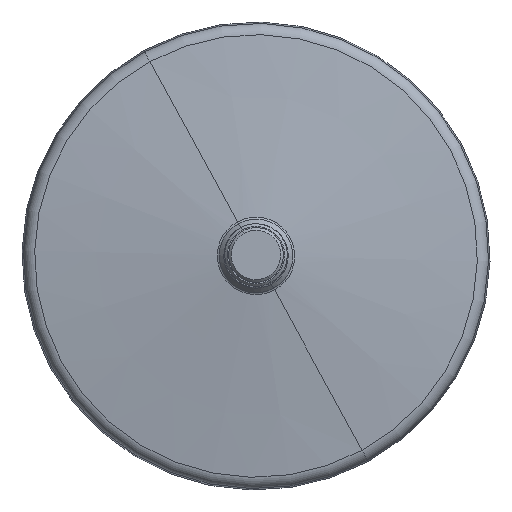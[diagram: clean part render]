
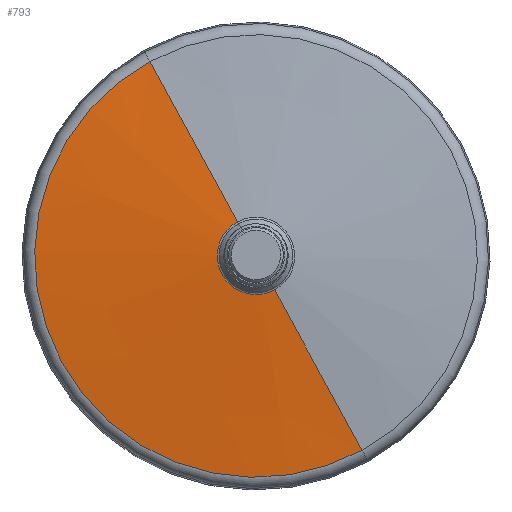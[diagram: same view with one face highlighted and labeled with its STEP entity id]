
A CAD part, top view. The second image highlights one B-rep face of the part: STEP entity #793.
In plain terms, the highlighted conical face has half-angle 82.947 degrees and reference radius 14.877 mm.
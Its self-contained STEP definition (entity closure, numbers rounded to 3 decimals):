
#459=EDGE_CURVE('',#1207,#1173,#1208,.F.);
#569=EDGE_CURVE('',#1080,#1207,#1376,.T.);
#793=ADVANCED_FACE('',(#1683),#1684,.T.);
#815=EDGE_CURVE('',#1080,#1174,#1713,.F.);
#981=EDGE_CURVE('',#1174,#1173,#1923,.F.);
#1080=VERTEX_POINT('',#2031);
#1173=VERTEX_POINT('',#2162);
#1174=VERTEX_POINT('',#2163);
#1207=VERTEX_POINT('',#2221);
#1208=LINE('',#2222,#2223);
#1376=CIRCLE('',#2455,85.114);
#1683=FACE_OUTER_BOUND('',#2890,.T.);
#1684=CONICAL_SURFACE('',#2891,14.877,1.448);
#1713=LINE('',#2940,#2941);
#1923=CIRCLE('',#3290,14.877);
#2031=CARTESIAN_POINT('',(-40.806,74.695,15.962));
#2162=CARTESIAN_POINT('',(7.133,-13.056,24.653));
#2163=CARTESIAN_POINT('',(-7.133,13.056,24.653));
#2221=CARTESIAN_POINT('',(40.806,-74.695,15.962));
#2222=CARTESIAN_POINT('',(23.969,-43.875,20.307));
#2223=VECTOR('',#3517,1.0);
#2455=AXIS2_PLACEMENT_3D('',#3735,#3736,#3737);
#2890=EDGE_LOOP('',(#4244,#4245,#4246,#4247));
#2891=AXIS2_PLACEMENT_3D('',#4248,#4249,#4250);
#2940=CARTESIAN_POINT('',(-23.969,43.875,20.307));
#2941=VECTOR('',#4306,1.0);
#3290=AXIS2_PLACEMENT_3D('',#4681,#4682,#4683);
#3517=DIRECTION('',(0.476,-0.871,-0.123));
#3735=CARTESIAN_POINT('',(0.0,0.0,15.962));
#3736=DIRECTION('',(0.0,0.0,1.0));
#3737=DIRECTION('',(1.0,0.0,0.0));
#4244=ORIENTED_EDGE('',*,*,#459,.T.);
#4245=ORIENTED_EDGE('',*,*,#981,.F.);
#4246=ORIENTED_EDGE('',*,*,#815,.F.);
#4247=ORIENTED_EDGE('',*,*,#569,.T.);
#4248=CARTESIAN_POINT('',(0.0,0.0,24.653));
#4249=DIRECTION('',(-0.0,-0.0,-1.0));
#4250=DIRECTION('',(-0.479,0.878,0.0));
#4306=DIRECTION('',(-0.476,0.871,-0.123));
#4681=CARTESIAN_POINT('',(0.0,0.0,24.653));
#4682=DIRECTION('',(0.0,0.0,-1.0));
#4683=DIRECTION('',(1.0,0.0,0.0));
